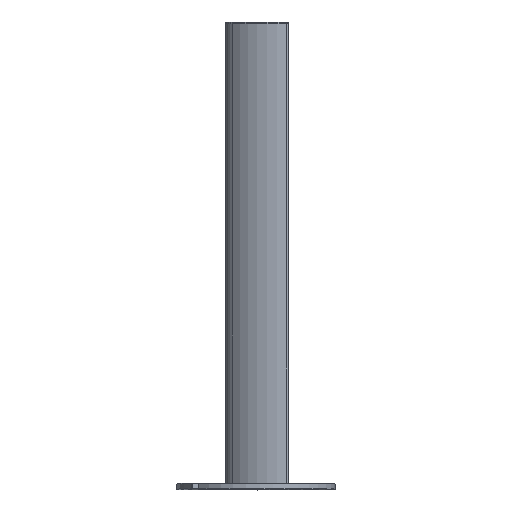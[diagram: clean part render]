
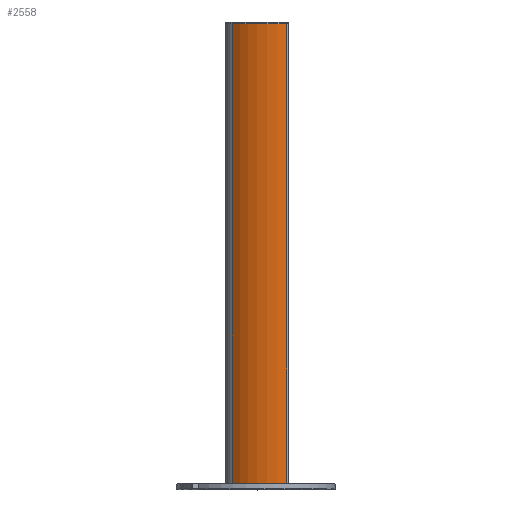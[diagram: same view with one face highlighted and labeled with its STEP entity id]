
A CAD part, top view. The second image highlights one B-rep face of the part: STEP entity #2558.
In plain terms, the highlighted cylindrical face has radius 79.059 mm (diameter 158.118 mm), a partial arc.
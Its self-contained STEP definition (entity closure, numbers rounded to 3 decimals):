
#72=CARTESIAN_POINT('',(24.886,-275.,-29.268));
#73=DIRECTION('',(0.,1.,0.));
#74=DIRECTION('',(-0.694,0.,0.72));
#75=AXIS2_PLACEMENT_3D('',#72,#73,#74);
#646=DIRECTION('',(0.,1.,0.));
#647=VECTOR('',#646,550.);
#648=CARTESIAN_POINT('',(35.448,-275.,49.083));
#649=LINE('',#648,#647);
#650=DIRECTION('',(0.,1.,0.));
#651=VECTOR('',#650,550.);
#652=CARTESIAN_POINT('',(-30.018,-275.,27.617));
#653=LINE('',#652,#651);
#1015=CARTESIAN_POINT('',(24.886,275.,-29.268));
#1016=DIRECTION('',(0.,1.,0.));
#1017=DIRECTION('',(-0.694,0.,0.72));
#1018=AXIS2_PLACEMENT_3D('',#1015,#1016,#1017);
#1116=CARTESIAN_POINT('',(-30.018,-275.,27.617));
#1117=VERTEX_POINT('',#1116);
#1118=CARTESIAN_POINT('',(35.448,-275.,49.083));
#1119=VERTEX_POINT('',#1118);
#1282=CARTESIAN_POINT('',(-30.018,275.,27.617));
#1283=VERTEX_POINT('',#1282);
#1284=CARTESIAN_POINT('',(35.448,275.,49.083));
#1285=VERTEX_POINT('',#1284);
#2545=CARTESIAN_POINT('',(24.886,-275.,-29.268));
#2546=DIRECTION('',(0.,1.,0.));
#2547=DIRECTION('',(1.,0.,0.));
#2548=AXIS2_PLACEMENT_3D('',#2545,#2546,#2547);
#2549=CYLINDRICAL_SURFACE('',#2548,79.059);
#2550=ORIENTED_EDGE('',*,*,#1453,.F.);
#2552=ORIENTED_EDGE('',*,*,#2551,.T.);
#2554=ORIENTED_EDGE('',*,*,#2553,.T.);
#2555=ORIENTED_EDGE('',*,*,#2537,.F.);
#2556=EDGE_LOOP('',(#2550,#2552,#2554,#2555));
#2557=FACE_OUTER_BOUND('',#2556,.F.);
#2558=ADVANCED_FACE('',(#2557),#2549,.T.);
#76=CIRCLE('',#75,79.059);
#1019=CIRCLE('',#1018,79.059);
#1453=EDGE_CURVE('',#1117,#1119,#76,.T.);
#2537=EDGE_CURVE('',#1119,#1285,#649,.T.);
#2551=EDGE_CURVE('',#1117,#1283,#653,.T.);
#2553=EDGE_CURVE('',#1283,#1285,#1019,.T.);
